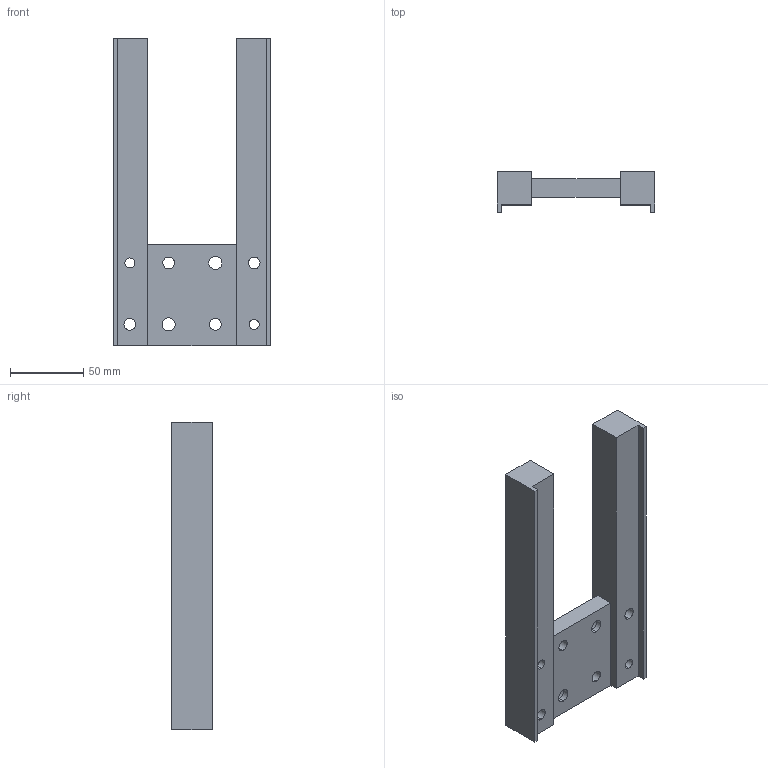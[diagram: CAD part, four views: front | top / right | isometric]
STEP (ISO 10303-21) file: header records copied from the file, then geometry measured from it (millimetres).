
FILE_DESCRIPTION (( 'STEP AP203' ), '1' );
FILE_NAME ('PPE80-P2.step', '2017-02-15T12:26:02', ( '' ), ( '' ), 'SwSTEP 2.0', 'SolidWorks 2012', '' );
FILE_SCHEMA (( 'CONFIG_CONTROL_DESIGN' ));
Length unit declared in the file: millimetre
Products named in the file (1): PPE80-P2
Bounding box: 108 x 28 x 210 mm (x, y, z)
Volume: 276444.4 mm3; surface area: 56798.6 mm2
Topology: 1 solids, 1 shells, 40 faces, 108 edges, 72 vertices
Faces by surface type: cylinder 20, plane 20
Entity records: 1381 total; most frequent: DIRECTION 230, CARTESIAN_POINT 221, ORIENTED_EDGE 216, EDGE_CURVE 108, AXIS2_PLACEMENT_3D 81, VERTEX_POINT 72, VECTOR 68, LINE 68
